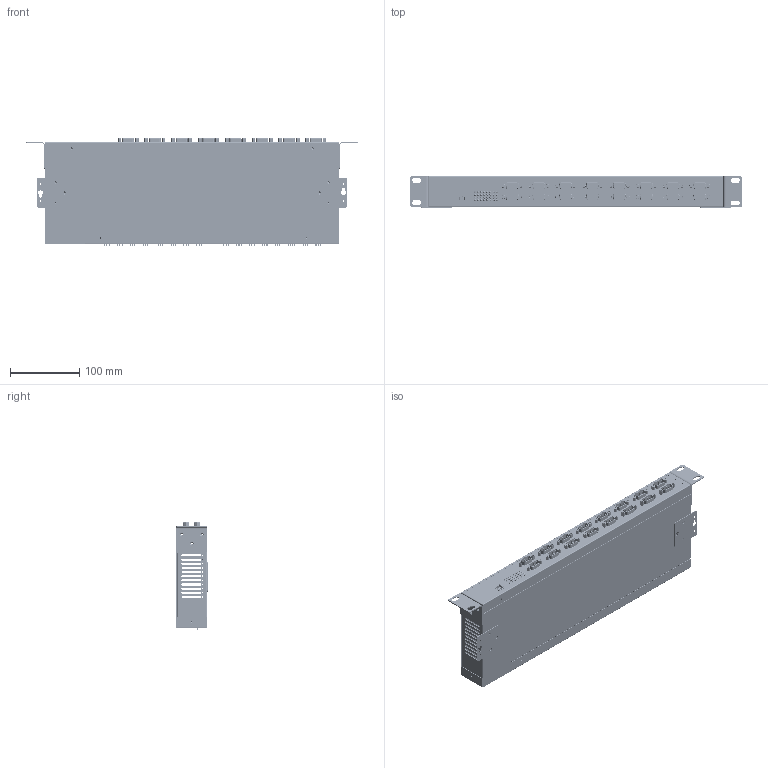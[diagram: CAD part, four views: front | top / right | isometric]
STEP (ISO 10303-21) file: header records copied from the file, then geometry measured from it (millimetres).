
FILE_DESCRIPTION(/* description */ (''),/* implementation_level */ '2;1');
FILE_NAME(/* name */ 'C:/Users/Leo/Desktop/AA CoolGear CADs/USB-16COMi-M/USB-16COMi-M Model3D LPV1.step',/* time_stamp */ '2021-10-21T09:47:31-04:00',/* author */ (''),/* organization */ (''),/* preprocessor_version */ 'ST-DEVELOPER v18.1',/* originating_system */ 'Autodesk Translation Framework v10.10.0.1391',/* authorisation */ '');
FILE_SCHEMA (('AUTOMOTIVE_DESIGN { 1 0 10303 214 3 1 1 }'));
Products named in the file (123): USB-16COMi-M; Component1; 93090A547_Press-Fit Threaded Standoffs; 93090A547_Press-Fit Threaded Standoffs (1); Component5; Component6; Terminator v1; Terminator v1(Mirror); 1333N21_IEC Connector; USB type B first Gen White v3; Housing1; pin1; shielding; pin2; shielding_2; Housing3; Component18; Serial Port v1; Component19; LED 2 Block mounting pcb v4; 6611124864; 6611124480; 6662586176; 6662585792; 6662585408; LED 2 Block mounting pcb v4_1; 6611124864_1; 6611124480_1; 6662586176_1; 6662585792_1; 6662585408_1; LED 2 Block mounting pcb v4_2; 6611124864_2; 6611124480_2; 6662586176_2; 6662585792_2; 6662585408_2; LED 2 Block mounting pcb v4_3; 6611124864_3; 6611124480_3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
Assembly tree (250 placements, depth 4):
  USB-16COMi-M
    Component1
    93090A547_Press-Fit Threaded Standoffs  x7
    93090A547_Press-Fit Threaded Standoffs (1)  x3
    Component5
    Component6
    Terminator v1  x8
    Terminator v1(Mirror)  x8
    1333N21_IEC Connector
    USB type B first Gen White v3
      Housing1
      pin1  x2
      shielding
      pin2  x2
      shielding_2
      Housing3
    Serial Port v1  x16
    Component18
    Component19
    Bolt M3X0.5 100Angle 5mmHead.5 China 120ang METRIC 18-8 SS FLAT HEAD 
PHIL MACHINE SCREW v2  x14
    LED 2 Block mounting pcb v4
      6611124864
        Sphere
      6611124480
        Sphere (1)
      6662586176
        Extruded
      6662585792
        Cylinder
      6662585408
        Cylinder (1)
    LED 2 Block mounting pcb v4_1
      6611124864_1
        Sphere
      6611124480_1
        Sphere (1)
      6662586176_1
        Extruded
      6662585792_1
        Cylinder
      6662585408_1
        Cylinder (1)
    LED 2 Block mounting pcb v4_2
      6611124864_2
        Sphere
      6611124480_2
        Sphere (1)
      6662586176_2
        Extruded
      6662585792_2
        Cylinder
      6662585408_2
        Cylinder (1)
    LED 2 Block mounting pcb v4_3
      6611124864_3
        Sphere
      6611124480_3
        Sphere (1)
      6662586176_3
        Extruded
Bounding box: 480.4 x 45.4 x 155.08 mm (x, y, z)
Volume: 353075 mm3; surface area: 558269.8 mm2
Topology: 5 solids, 14 shells, 7136 faces, 19320 edges, 12613 vertices
Faces by surface type: plane 4953, cylinder 1413, cone 311, sphere 176, torus 166, bspline 117
Full cylindrical faces by diameter (mm): 1 x144, 1.65 x3, 2 x3, 2.35 x28, 2.529 x24, 2.6 x32, 2.8 x32, 3 x89, 3.26 x32, 3.5 x7, 4.765 x3, 5.4 x10
Entity records: 265376 total; most frequent: CARTESIAN_POINT 83859, ORIENTED_EDGE 38110, DIRECTION 35344, EDGE_CURVE 19055, LINE 14270, VECTOR 14270, VERTEX_POINT 12574, AXIS2_PLACEMENT_3D 10537
